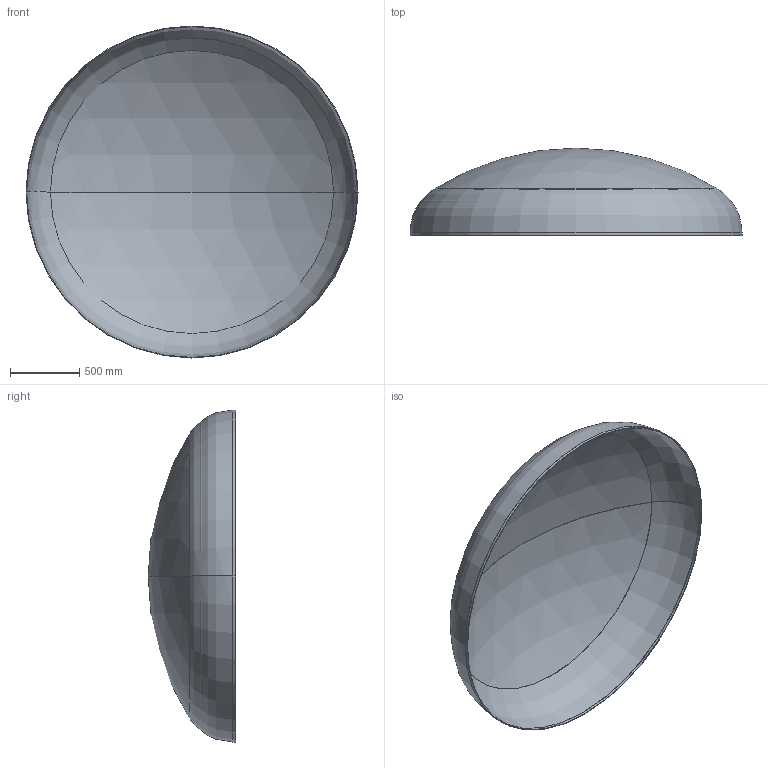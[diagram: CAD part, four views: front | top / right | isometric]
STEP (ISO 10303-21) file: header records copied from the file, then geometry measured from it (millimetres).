
FILE_DESCRIPTION (( 'STEP AP203' ), '1' );
FILE_NAME ('DIN 28013 Korbbogenform_-_Boden DIN 28013 - 2400 x 20 - I - s=4.step', '2016-07-01T15:01:10', ( '' ), ( '' ), 'SwSTEP 2.0', 'SolidWorks 2013', '' );
FILE_SCHEMA (( 'CONFIG_CONTROL_DESIGN' ));
Length unit declared in the file: millimetre
Products named in the file (1): DIN 28013 Korbbogenform_-_Boden DIN 28013 - 2400 x 20 - I - s=4
Bounding box: 2400 x 632.43 x 2400 mm (x, y, z)
Volume: 25616857.8 mm3; surface area: 12838566.2 mm2
Topology: 1 solids, 1 shells, 13 faces, 24 edges, 14 vertices
Faces by surface type: torus 4, cylinder 4, sphere 4, plane 1
Entity records: 407 total; most frequent: DIRECTION 72, CARTESIAN_POINT 52, ORIENTED_EDGE 48, AXIS2_PLACEMENT_3D 34, EDGE_CURVE 24, CIRCLE 20, EDGE_LOOP 14, VERTEX_POINT 14
